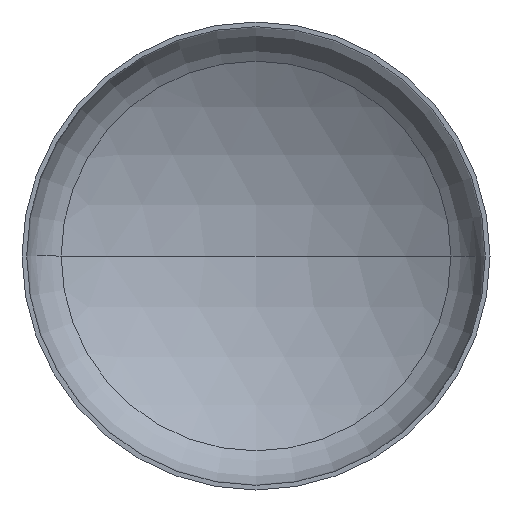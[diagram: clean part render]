
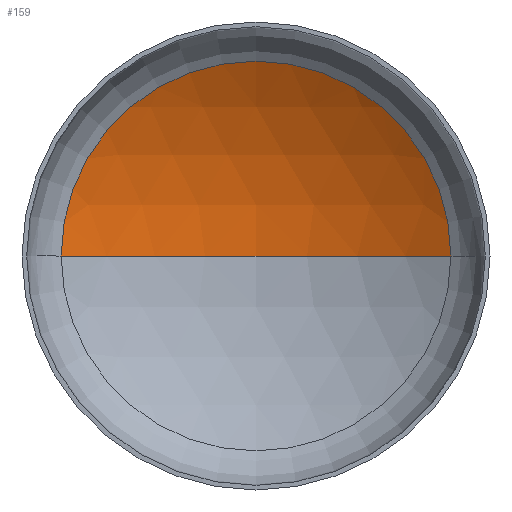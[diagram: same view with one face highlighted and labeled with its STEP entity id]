
A CAD part, front view. The second image highlights one B-rep face of the part: STEP entity #159.
In plain terms, the highlighted spherical face has radius 1120 mm.
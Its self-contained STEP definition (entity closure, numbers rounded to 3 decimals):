
#27 = AXIS2_PLACEMENT_3D ( 'NONE', #186, #165, #169 ) ;
#35 = VERTEX_POINT ( 'NONE', #187 ) ;
#41 = AXIS2_PLACEMENT_3D ( 'NONE', #182, #223, #214 ) ;
#45 = AXIS2_PLACEMENT_3D ( 'NONE', #239, #244, #176 ) ;
#46 = AXIS2_PLACEMENT_3D ( 'NONE', #236, #293, #217 ) ;
#56 = ORIENTED_EDGE ( 'NONE', *, *, #112, .T. ) ;
#82 = ORIENTED_EDGE ( 'NONE', *, *, #109, .T. ) ;
#97 = EDGE_LOOP ( 'NONE', ( #117, #56, #82 ) ) ;
#107 = VERTEX_POINT ( 'NONE', #262 ) ;
#109 = EDGE_CURVE ( 'NONE', #133, #107, #316, .T. ) ;
#112 = EDGE_CURVE ( 'NONE', #35, #133, #377, .T. ) ;
#113 = CIRCLE ( 'NONE', #41, 1120. ) ;
#114 = EDGE_CURVE ( 'NONE', #35, #107, #113, .T. ) ;
#117 = ORIENTED_EDGE ( 'NONE', *, *, #114, .F. ) ;
#133 = VERTEX_POINT ( 'NONE', #203 ) ;
#159 = ADVANCED_FACE ( 'NONE', ( #200 ), #258, .F. ) ;
#165 = DIRECTION ( 'NONE',  ( 0., 0., -1. ) ) ;
#169 = DIRECTION ( 'NONE',  ( -1., 0., 0. ) ) ;
#176 = DIRECTION ( 'NONE',  ( -1., 0., 0. ) ) ;
#182 = CARTESIAN_POINT ( 'NONE',  ( 0., -727.777, 0. ) ) ;
#186 = CARTESIAN_POINT ( 'NONE',  ( 0., -727.777, 0. ) ) ;
#187 = CARTESIAN_POINT ( 'NONE',  ( 0., 392.223, 0. ) ) ;
#200 = FACE_OUTER_BOUND ( 'NONE', #97, .T. ) ;
#203 = CARTESIAN_POINT ( 'NONE',  ( 582.895, 228.588, 0. ) ) ;
#214 = DIRECTION ( 'NONE',  ( 1., 0., 0. ) ) ;
#217 = DIRECTION ( 'NONE',  ( 1., 0., 0. ) ) ;
#223 = DIRECTION ( 'NONE',  ( 0., 0., 1. ) ) ;
#236 = CARTESIAN_POINT ( 'NONE',  ( 0., 228.588, 0. ) ) ;
#239 = CARTESIAN_POINT ( 'NONE',  ( 0., -727.777, 0. ) ) ;
#244 = DIRECTION ( 'NONE',  ( 0., 0., -1. ) ) ;
#258 = SPHERICAL_SURFACE ( 'NONE', #27, 1120. ) ;
#262 = CARTESIAN_POINT ( 'NONE',  ( -582.895, 228.588, 0. ) ) ;
#293 = DIRECTION ( 'NONE',  ( 0., -1., 0. ) ) ;
#316 = CIRCLE ( 'NONE', #46, 582.895 ) ;
#377 = CIRCLE ( 'NONE', #45, 1120. ) ;
